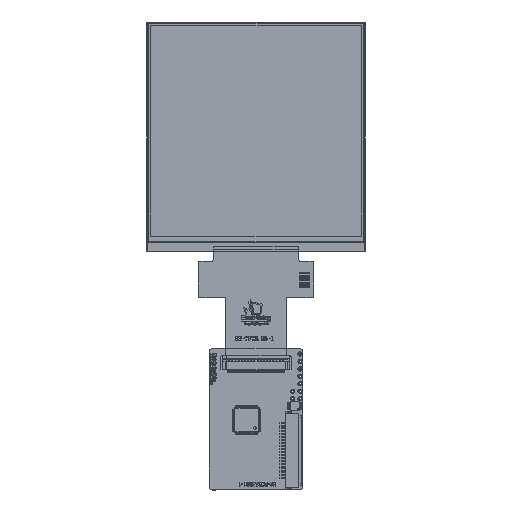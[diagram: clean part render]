
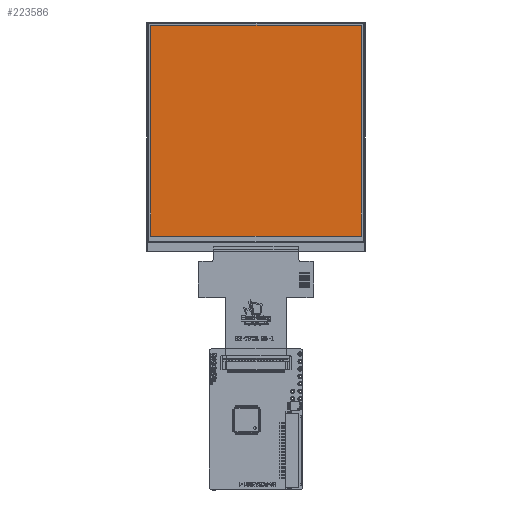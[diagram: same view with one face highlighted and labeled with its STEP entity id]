
A CAD part, top view. The second image highlights one B-rep face of the part: STEP entity #223586.
In plain terms, the highlighted planar face has unit normal (0, 0, 1).
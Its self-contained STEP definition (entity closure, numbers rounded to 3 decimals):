
#39139 = VERTEX_POINT ( 'NONE', #104301 ) ;
#54134 = VERTEX_POINT ( 'NONE', #246868 ) ;
#55821 = EDGE_CURVE ( 'NONE', #105071, #54134, #218318, .T. ) ;
#70423 = LINE ( 'NONE', #240417, #246031 ) ;
#77567 = PLANE ( 'NONE',  #106512 ) ;
#78586 = CARTESIAN_POINT ( 'NONE',  ( 35.965, 0., 2. ) ) ;
#87617 = VECTOR ( 'NONE', #138927, 1000. ) ;
#92616 = CARTESIAN_POINT ( 'NONE',  ( -35.965, 38.04, 2. ) ) ;
#93394 = EDGE_LOOP ( 'NONE', ( #106987, #274398, #188221, #257600 ) ) ;
#98165 = VECTOR ( 'NONE', #208007, 1000. ) ;
#101398 = DIRECTION ( 'NONE',  ( 1., 0., 0. ) ) ;
#104157 = CARTESIAN_POINT ( 'NONE',  ( 0., 0., 2. ) ) ;
#104301 = CARTESIAN_POINT ( 'NONE',  ( -35.965, -33.89, 2. ) ) ;
#105071 = VERTEX_POINT ( 'NONE', #92616 ) ;
#106512 = AXIS2_PLACEMENT_3D ( 'NONE', #104157, #227884, #101398 ) ;
#106987 = ORIENTED_EDGE ( 'NONE', *, *, #222323, .F. ) ;
#115704 = CARTESIAN_POINT ( 'NONE',  ( 35.965, -33.89, 2. ) ) ;
#129364 = VERTEX_POINT ( 'NONE', #115704 ) ;
#138927 = DIRECTION ( 'NONE',  ( 0., -1., 0. ) ) ;
#153610 = CARTESIAN_POINT ( 'NONE',  ( 0., 38.04, 2. ) ) ;
#165837 = LINE ( 'NONE', #189716, #98165 ) ;
#188221 = ORIENTED_EDGE ( 'NONE', *, *, #257570, .F. ) ;
#189716 = CARTESIAN_POINT ( 'NONE',  ( -35.965, 0., 2. ) ) ;
#205376 = FACE_OUTER_BOUND ( 'NONE', #93394, .T. ) ;
#208007 = DIRECTION ( 'NONE',  ( 0., 1., 0. ) ) ;
#218318 = LINE ( 'NONE', #153610, #238227 ) ;
#222323 = EDGE_CURVE ( 'NONE', #54134, #129364, #226110, .T. ) ;
#223586 = ADVANCED_FACE ( 'NONE', ( #205376 ), #77567, .T. ) ;
#226110 = LINE ( 'NONE', #78586, #87617 ) ;
#227884 = DIRECTION ( 'NONE',  ( 0., 0., 1. ) ) ;
#238032 = DIRECTION ( 'NONE',  ( 1., 0., 0. ) ) ;
#238227 = VECTOR ( 'NONE', #238032, 1000. ) ;
#240417 = CARTESIAN_POINT ( 'NONE',  ( 0., -33.89, 2. ) ) ;
#246031 = VECTOR ( 'NONE', #261414, 1000. ) ;
#246868 = CARTESIAN_POINT ( 'NONE',  ( 35.965, 38.04, 2. ) ) ;
#249625 = EDGE_CURVE ( 'NONE', #129364, #39139, #70423, .T. ) ;
#257570 = EDGE_CURVE ( 'NONE', #39139, #105071, #165837, .T. ) ;
#257600 = ORIENTED_EDGE ( 'NONE', *, *, #249625, .F. ) ;
#261414 = DIRECTION ( 'NONE',  ( -1., 0., 0. ) ) ;
#274398 = ORIENTED_EDGE ( 'NONE', *, *, #55821, .F. ) ;
